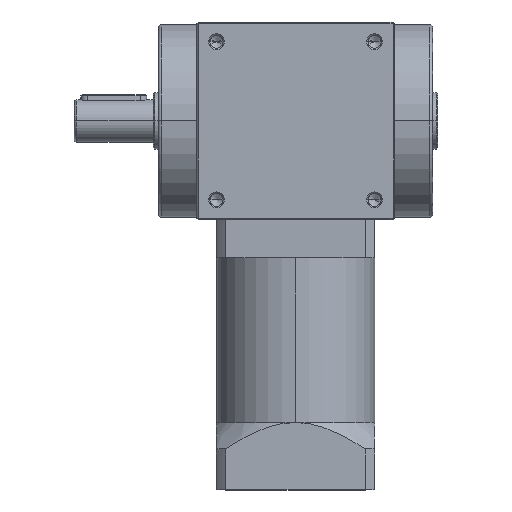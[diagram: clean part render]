
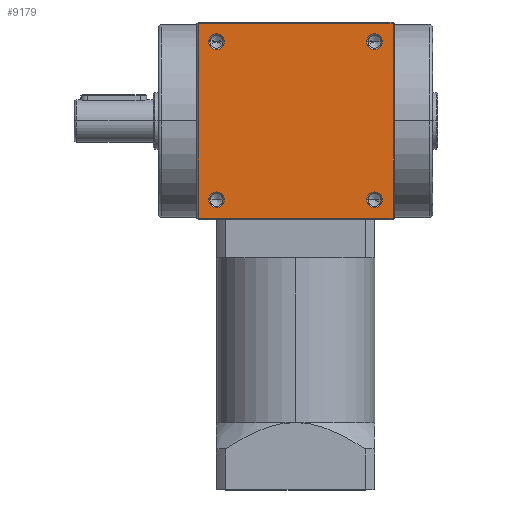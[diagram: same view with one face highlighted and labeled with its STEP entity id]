
A CAD part, top view. The second image highlights one B-rep face of the part: STEP entity #9179.
In plain terms, the highlighted planar face has unit normal (0, 0, 1).
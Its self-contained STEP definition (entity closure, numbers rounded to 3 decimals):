
#203 = EDGE_LOOP ( 'NONE', ( #5634, #6081, #7355, #4793 ) ) ;
#219 = EDGE_CURVE ( 'NONE', #545, #3841, #8210, .T. ) ;
#316 = CARTESIAN_POINT ( 'NONE',  ( -30., -30., 37.5 ) ) ;
#336 = EDGE_CURVE ( 'NONE', #3841, #5412, #434, .T. ) ;
#343 = DIRECTION ( 'NONE',  ( 0., 0., -1. ) ) ;
#382 = LINE ( 'NONE', #6822, #1048 ) ;
#434 = LINE ( 'NONE', #650, #1649 ) ;
#454 = DIRECTION ( 'NONE',  ( -1., 0., 0. ) ) ;
#545 = VERTEX_POINT ( 'NONE', #3902 ) ;
#650 = CARTESIAN_POINT ( 'NONE',  ( 37., 0., 37.5 ) ) ;
#706 = CARTESIAN_POINT ( 'NONE',  ( 30., -30., 37.5 ) ) ;
#747 = CIRCLE ( 'NONE', #8262, 3. ) ;
#801 = DIRECTION ( 'NONE',  ( -1., 0., 0. ) ) ;
#858 = VERTEX_POINT ( 'NONE', #4225 ) ;
#968 = CARTESIAN_POINT ( 'NONE',  ( -37., 37., 37.5 ) ) ;
#1048 = VECTOR ( 'NONE', #1876, 1000. ) ;
#1127 = FACE_OUTER_BOUND ( 'NONE', #203, .T. ) ;
#1177 = CARTESIAN_POINT ( 'NONE',  ( 33., 30., 37.5 ) ) ;
#1313 = CARTESIAN_POINT ( 'NONE',  ( 30., -30., 37.5 ) ) ;
#1366 = AXIS2_PLACEMENT_3D ( 'NONE', #316, #3969, #3877 ) ;
#1610 = EDGE_CURVE ( 'NONE', #3304, #545, #3358, .T. ) ;
#1649 = VECTOR ( 'NONE', #5551, 1000. ) ;
#1876 = DIRECTION ( 'NONE',  ( -1., 0., 0. ) ) ;
#1934 = CARTESIAN_POINT ( 'NONE',  ( 37., -37., 37.5 ) ) ;
#1988 = DIRECTION ( 'NONE',  ( 0., -1., 0. ) ) ;
#2061 = EDGE_CURVE ( 'NONE', #5412, #3304, #382, .T. ) ;
#2123 = ORIENTED_EDGE ( 'NONE', *, *, #2277, .T. ) ;
#2276 = DIRECTION ( 'NONE',  ( -1., 0., 0. ) ) ;
#2277 = EDGE_CURVE ( 'NONE', #6033, #858, #7070, .T. ) ;
#2287 = EDGE_CURVE ( 'NONE', #9004, #3748, #3286, .T. ) ;
#2315 = CARTESIAN_POINT ( 'NONE',  ( -27., -30., 37.5 ) ) ;
#2387 = EDGE_LOOP ( 'NONE', ( #2123, #4276 ) ) ;
#2496 = DIRECTION ( 'NONE',  ( -1., 0., 0. ) ) ;
#2743 = EDGE_CURVE ( 'NONE', #4425, #6371, #2905, .T. ) ;
#2905 = CIRCLE ( 'NONE', #8217, 3. ) ;
#2940 = AXIS2_PLACEMENT_3D ( 'NONE', #3491, #6874, #454 ) ;
#3034 = FACE_BOUND ( 'NONE', #8202, .T. ) ;
#3099 = CARTESIAN_POINT ( 'NONE',  ( -27., 30., 37.5 ) ) ;
#3286 = CIRCLE ( 'NONE', #4323, 3. ) ;
#3304 = VERTEX_POINT ( 'NONE', #968 ) ;
#3358 = LINE ( 'NONE', #3429, #5043 ) ;
#3412 = DIRECTION ( 'NONE',  ( -1., 0., 0. ) ) ;
#3429 = CARTESIAN_POINT ( 'NONE',  ( -37., 0., 37.5 ) ) ;
#3491 = CARTESIAN_POINT ( 'NONE',  ( 0., 0., 37.5 ) ) ;
#3623 = EDGE_CURVE ( 'NONE', #858, #6033, #5867, .T. ) ;
#3640 = DIRECTION ( 'NONE',  ( 0., 0., -1. ) ) ;
#3643 = VECTOR ( 'NONE', #6799, 1000. ) ;
#3748 = VERTEX_POINT ( 'NONE', #2315 ) ;
#3808 = CARTESIAN_POINT ( 'NONE',  ( 0., -37., 37.5 ) ) ;
#3841 = VERTEX_POINT ( 'NONE', #1934 ) ;
#3854 = CARTESIAN_POINT ( 'NONE',  ( -33., -30., 37.5 ) ) ;
#3877 = DIRECTION ( 'NONE',  ( -1., 0., 0. ) ) ;
#3902 = CARTESIAN_POINT ( 'NONE',  ( -37., -37., 37.5 ) ) ;
#3927 = FACE_BOUND ( 'NONE', #6049, .T. ) ;
#3967 = CIRCLE ( 'NONE', #8509, 3. ) ;
#3969 = DIRECTION ( 'NONE',  ( 0., 0., -1. ) ) ;
#4070 = ORIENTED_EDGE ( 'NONE', *, *, #2287, .T. ) ;
#4072 = ORIENTED_EDGE ( 'NONE', *, *, #6472, .T. ) ;
#4225 = CARTESIAN_POINT ( 'NONE',  ( 27., -30., 37.5 ) ) ;
#4276 = ORIENTED_EDGE ( 'NONE', *, *, #3623, .T. ) ;
#4323 = AXIS2_PLACEMENT_3D ( 'NONE', #6539, #3640, #801 ) ;
#4425 = VERTEX_POINT ( 'NONE', #8454 ) ;
#4465 = EDGE_CURVE ( 'NONE', #6371, #4425, #3967, .T. ) ;
#4485 = CARTESIAN_POINT ( 'NONE',  ( 30., 30., 37.5 ) ) ;
#4749 = VERTEX_POINT ( 'NONE', #6888 ) ;
#4793 = ORIENTED_EDGE ( 'NONE', *, *, #2061, .T. ) ;
#4850 = AXIS2_PLACEMENT_3D ( 'NONE', #8078, #8698, #6615 ) ;
#4913 = DIRECTION ( 'NONE',  ( -1., 0., 0. ) ) ;
#4929 = FACE_BOUND ( 'NONE', #2387, .T. ) ;
#4983 = CIRCLE ( 'NONE', #4850, 3. ) ;
#5035 = DIRECTION ( 'NONE',  ( 0., 0., -1. ) ) ;
#5043 = VECTOR ( 'NONE', #1988, 1000. ) ;
#5412 = VERTEX_POINT ( 'NONE', #8689 ) ;
#5551 = DIRECTION ( 'NONE',  ( 0., 1., 0. ) ) ;
#5590 = EDGE_CURVE ( 'NONE', #4749, #6988, #747, .T. ) ;
#5634 = ORIENTED_EDGE ( 'NONE', *, *, #1610, .T. ) ;
#5656 = CARTESIAN_POINT ( 'NONE',  ( -30., 30., 37.5 ) ) ;
#5867 = CIRCLE ( 'NONE', #6554, 3. ) ;
#6033 = VERTEX_POINT ( 'NONE', #6728 ) ;
#6049 = EDGE_LOOP ( 'NONE', ( #4072, #4070 ) ) ;
#6081 = ORIENTED_EDGE ( 'NONE', *, *, #219, .T. ) ;
#6185 = AXIS2_PLACEMENT_3D ( 'NONE', #706, #5035, #2276 ) ;
#6279 = DIRECTION ( 'NONE',  ( 0., 0., -1. ) ) ;
#6371 = VERTEX_POINT ( 'NONE', #3099 ) ;
#6472 = EDGE_CURVE ( 'NONE', #3748, #9004, #8645, .T. ) ;
#6539 = CARTESIAN_POINT ( 'NONE',  ( -30., -30., 37.5 ) ) ;
#6545 = ORIENTED_EDGE ( 'NONE', *, *, #5590, .T. ) ;
#6554 = AXIS2_PLACEMENT_3D ( 'NONE', #1313, #9150, #4913 ) ;
#6615 = DIRECTION ( 'NONE',  ( -1., 0., 0. ) ) ;
#6673 = ORIENTED_EDGE ( 'NONE', *, *, #6850, .T. ) ;
#6728 = CARTESIAN_POINT ( 'NONE',  ( 33., -30., 37.5 ) ) ;
#6799 = DIRECTION ( 'NONE',  ( 1., 0., 0. ) ) ;
#6822 = CARTESIAN_POINT ( 'NONE',  ( 0., 37., 37.5 ) ) ;
#6850 = EDGE_CURVE ( 'NONE', #6988, #4749, #4983, .T. ) ;
#6874 = DIRECTION ( 'NONE',  ( 0., 0., -1. ) ) ;
#6888 = CARTESIAN_POINT ( 'NONE',  ( 27., 30., 37.5 ) ) ;
#6988 = VERTEX_POINT ( 'NONE', #1177 ) ;
#7035 = FACE_BOUND ( 'NONE', #7989, .T. ) ;
#7070 = CIRCLE ( 'NONE', #6185, 3. ) ;
#7106 = ORIENTED_EDGE ( 'NONE', *, *, #2743, .T. ) ;
#7121 = DIRECTION ( 'NONE',  ( -1., 0., 0. ) ) ;
#7355 = ORIENTED_EDGE ( 'NONE', *, *, #336, .T. ) ;
#7726 = CARTESIAN_POINT ( 'NONE',  ( -30., 30., 37.5 ) ) ;
#7989 = EDGE_LOOP ( 'NONE', ( #6673, #6545 ) ) ;
#8078 = CARTESIAN_POINT ( 'NONE',  ( 30., 30., 37.5 ) ) ;
#8202 = EDGE_LOOP ( 'NONE', ( #8904, #7106 ) ) ;
#8210 = LINE ( 'NONE', #3808, #3643 ) ;
#8217 = AXIS2_PLACEMENT_3D ( 'NONE', #7726, #6279, #3412 ) ;
#8262 = AXIS2_PLACEMENT_3D ( 'NONE', #4485, #343, #2496 ) ;
#8275 = PLANE ( 'NONE',  #2940 ) ;
#8454 = CARTESIAN_POINT ( 'NONE',  ( -33., 30., 37.5 ) ) ;
#8509 = AXIS2_PLACEMENT_3D ( 'NONE', #5656, #8574, #7121 ) ;
#8574 = DIRECTION ( 'NONE',  ( 0., 0., -1. ) ) ;
#8645 = CIRCLE ( 'NONE', #1366, 3. ) ;
#8689 = CARTESIAN_POINT ( 'NONE',  ( 37., 37., 37.5 ) ) ;
#8698 = DIRECTION ( 'NONE',  ( 0., 0., -1. ) ) ;
#8904 = ORIENTED_EDGE ( 'NONE', *, *, #4465, .T. ) ;
#9004 = VERTEX_POINT ( 'NONE', #3854 ) ;
#9150 = DIRECTION ( 'NONE',  ( 0., 0., -1. ) ) ;
#9179 = ADVANCED_FACE ( 'NONE', ( #4929, #3927, #7035, #3034, #1127 ), #8275, .F. ) ;
